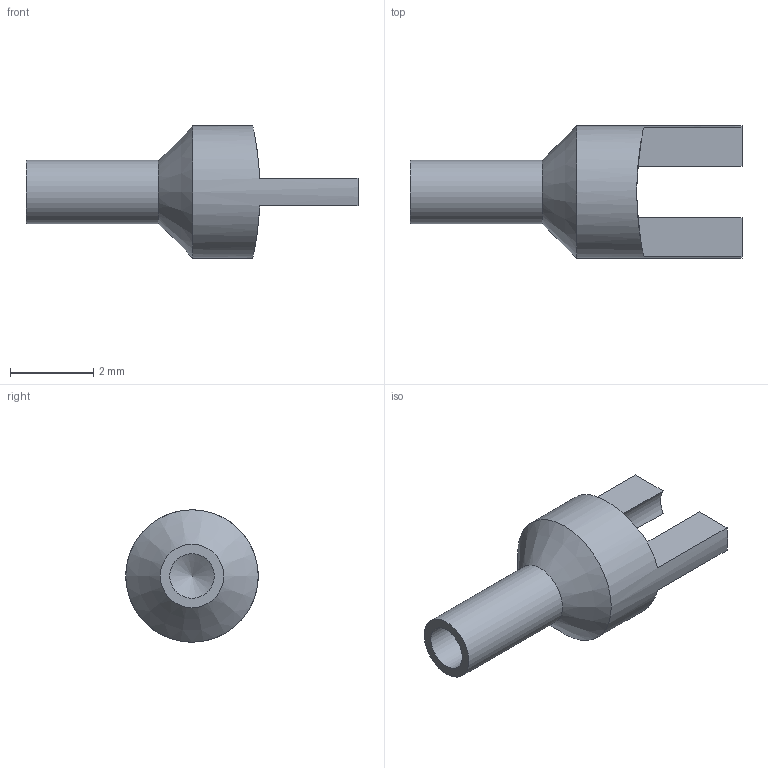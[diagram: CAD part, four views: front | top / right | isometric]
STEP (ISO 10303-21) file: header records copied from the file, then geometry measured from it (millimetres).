
FILE_DESCRIPTION(/* description */ (''),/* implementation_level */ '2;1');
FILE_NAME(/* name */ 'Z:\STEP folder\180-2926-03.ipt.stp',/* time_stamp */ '2016-12-07T16:17:39+00:00',/* author */ ('Paul Karlsons'),/* organization */ (''),/* preprocessor_version */ 'ST-DEVELOPER v15.2',/* originating_system */ 'Autodesk Inventor 2014',/* authorisation */ '');
FILE_SCHEMA (('AUTOMOTIVE_DESIGN { 1 0 10303 214 3 1 1 }'));
Length unit declared in the file: millimetre
Products named in the file (1): 180-2926-03
Bounding box: 7.96 x 3.17 x 3.17 mm (x, y, z)
Volume: 22 mm3; surface area: 71.4 mm2
Topology: 1 solids, 1 shells, 16 faces, 41 edges, 26 vertices
Faces by surface type: plane 7, cylinder 6, cone 3
Full cylindrical faces by diameter (mm): 1.067 x1, 1.397 x1, 1.524 x1, 3.175 x1
Entity records: 489 total; most frequent: CARTESIAN_POINT 129, DIRECTION 74, ORIENTED_EDGE 60, AXIS2_PLACEMENT_3D 31, EDGE_CURVE 30, EDGE_LOOP 22, VERTEX_POINT 22, ADVANCED_FACE 16
